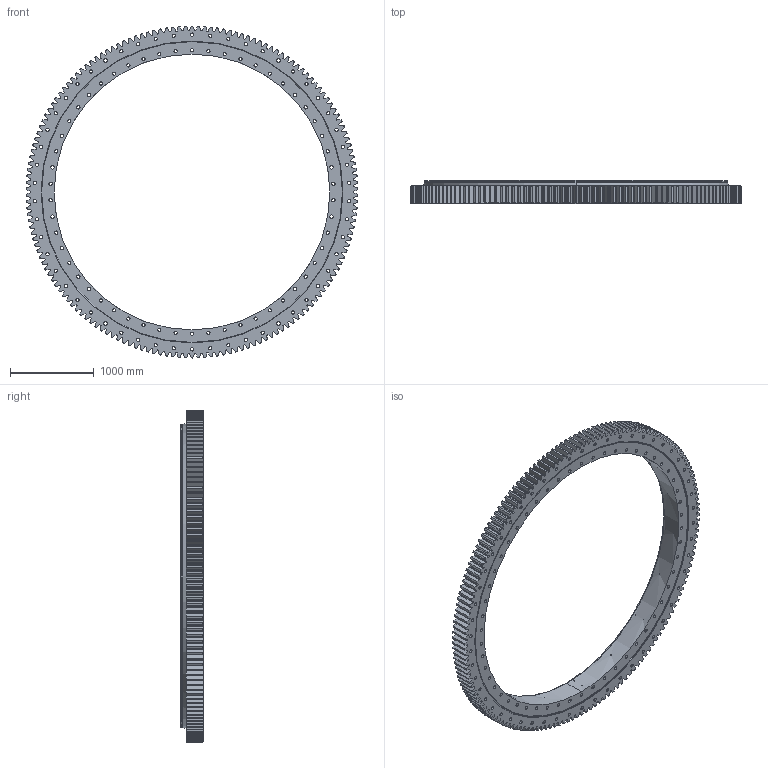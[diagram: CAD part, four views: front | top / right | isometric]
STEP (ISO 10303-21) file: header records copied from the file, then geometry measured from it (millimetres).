
FILE_DESCRIPTION (( 'STEP AP214' ), '1' );
FILE_NAME ('SM3350-2-3955AA.STEP', '2022-11-29T07:18:34', ( '' ), ( '' ), 'SwSTEP 2.0', 'SolidWorks 2020', '' );
FILE_SCHEMA (( 'AUTOMOTIVE_DESIGN' ));
Length unit declared in the file: millimetre
Products named in the file (1): SM3350-2-3955AA
Bounding box: 3954.81 x 268 x 3955.2 mm (x, y, z)
Volume: 781816437.9 mm3; surface area: 26163027.5 mm2
Topology: 5 solids, 5 shells, 1601 faces, 4606 edges, 3061 vertices
Faces by surface type: plane 731, cylinder 532, cone 338
Entity records: 56041 total; most frequent: CARTESIAN_POINT 14849, ORIENTED_EDGE 9212, DIRECTION 7793, EDGE_CURVE 4606, VERTEX_POINT 3061, AXIS2_PLACEMENT_3D 2953, EDGE_LOOP 1891, VECTOR 1887
